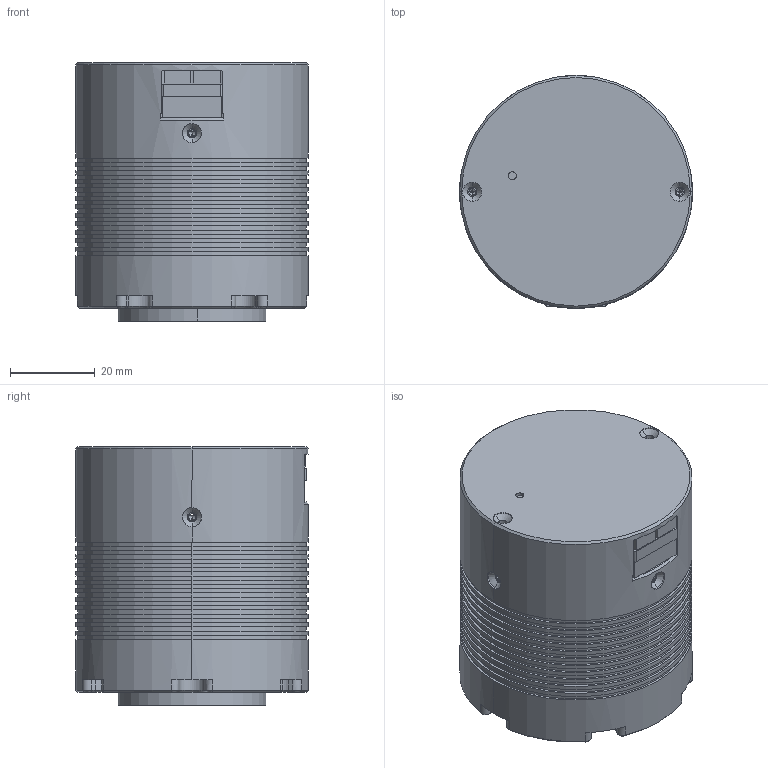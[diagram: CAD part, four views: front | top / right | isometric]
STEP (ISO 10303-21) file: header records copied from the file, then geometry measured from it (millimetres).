
FILE_DESCRIPTION (( 'STEP AP203' ), '1' );
FILE_NAME ('X4-P36-36.STEP', '2024-11-17T08:09:11', ( '' ), ( '' ), 'SwSTEP 2.0', 'SolidWorks 2020', '' );
FILE_SCHEMA (( 'CONFIG_CONTROL_DESIGN' ));
Length unit declared in the file: millimetre
Products named in the file (1): X4-P36-36
Bounding box: 55 x 55 x 61 mm (x, y, z)
Volume: 42873.6 mm3; surface area: 46339.8 mm2
Topology: 2 solids, 4 shells, 731 faces, 1861 edges, 1155 vertices
Faces by surface type: cylinder 403, plane 175, cone 153
Entity records: 22814 total; most frequent: CARTESIAN_POINT 4627, DIRECTION 4079, ORIENTED_EDGE 3610, EDGE_CURVE 1805, AXIS2_PLACEMENT_3D 1635, VERTEX_POINT 1155, CIRCLE 903, EDGE_LOOP 870
